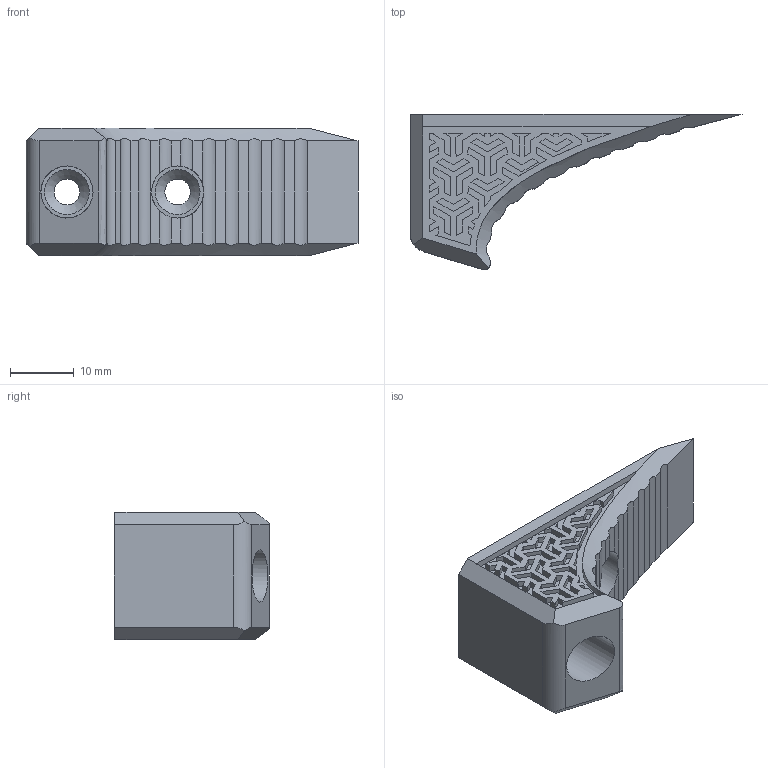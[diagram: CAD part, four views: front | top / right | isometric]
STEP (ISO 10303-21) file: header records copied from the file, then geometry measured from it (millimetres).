
FILE_DESCRIPTION(/* description */ (''),/* implementation_level */ '2;1');
FILE_NAME(/* name */ 'D:/Pew Pews/FGC-9_MkII_Stingray_Edition/Stingray Edition/.step files/6 - Accessories/Small Hand Stop.step',/* time_stamp */ '2022-05-12T11:10:00-06:00',/* author */ (''),/* organization */ (''),/* preprocessor_version */ 'ST-DEVELOPER v18.1',/* originating_system */ 'Autodesk Translation Framework v10.10.0.1391',/* authorisation */ '');
FILE_SCHEMA (('AUTOMOTIVE_DESIGN { 1 0 10303 214 3 1 1 }'));
Length unit declared in the file: millimetre
Products named in the file (1): Hand stop
Bounding box: 51.93 x 24.33 x 20 mm (x, y, z)
Volume: 8757.3 mm3; surface area: 5028.4 mm2
Topology: 1 solids, 1 shells, 432 faces, 1194 edges, 793 vertices
Faces by surface type: plane 377, bspline 35, cylinder 18, cone 2
Full cylindrical faces by diameter (mm): 4 x2, 8.15 x2
Entity records: 15391 total; most frequent: CARTESIAN_POINT 4681, ORIENTED_EDGE 2388, DIRECTION 1864, EDGE_CURVE 1194, LINE 1042, VECTOR 1042, VERTEX_POINT 793, EDGE_LOOP 465
